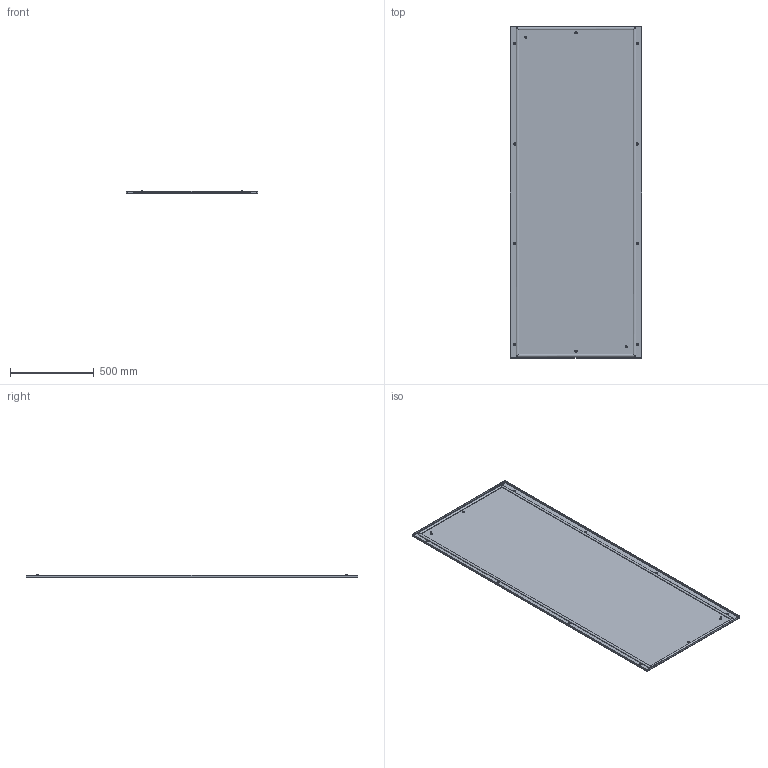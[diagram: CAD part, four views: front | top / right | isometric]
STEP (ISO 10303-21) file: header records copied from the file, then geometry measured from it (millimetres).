
FILE_DESCRIPTION(('STEP AP203'), '1');
FILE_NAME('Ïàíåëü çàäíÿÿ 2000õ800 ìì IP55 OptiBox M 419682 ÊÝÀÇ', '', ('UNSPECIFIED'), ('UNSPECIFIED'), 'C3D Converter', 'C3D Toolkit', '');
FILE_SCHEMA(('CONFIG_CONTROL_DESIGN'));
Length unit declared in the file: millimetre
Bounding box: 786 x 1986 x 18.9 mm (x, y, z)
Volume: 2767615 mm3; surface area: 3473564.8 mm2
Topology: 4 solids, 4 shells, 147 faces, 302 edges, 180 vertices
Faces by surface type: plane 81, cylinder 58, bspline 8
Full cylindrical faces by diameter (mm): 0.75 x2, 1 x2, 6.3 x10, 8 x2, 9.3 x2, 13 x2, 13.5 x10
Entity records: 5016 total; most frequent: CARTESIAN_POINT 1976, DIRECTION 600, ORIENTED_EDGE 544, EDGE_CURVE 272, AXIS2_PLACEMENT_3D 224, EDGE_LOOP 216, VERTEX_POINT 180, FACE_BOUND 156
